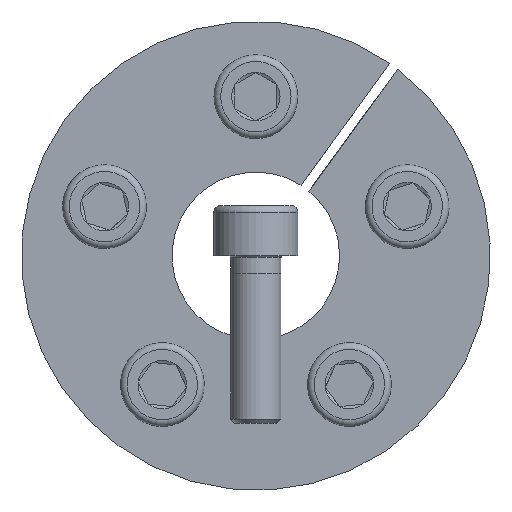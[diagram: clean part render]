
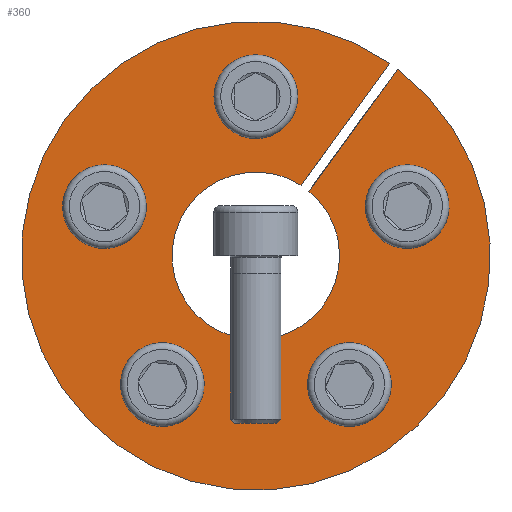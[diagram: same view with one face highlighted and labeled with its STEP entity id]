
A CAD part, front view. The second image highlights one B-rep face of the part: STEP entity #360.
In plain terms, the highlighted planar face has unit normal (0, -1, 0).
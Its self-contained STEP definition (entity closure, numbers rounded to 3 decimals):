
#360 = ADVANCED_FACE( '', ( #560, #561, #562, #563, #564, #565 ), #566, .F. );
#560 = FACE_BOUND( '', #694, .T. );
#561 = FACE_BOUND( '', #695, .T. );
#562 = FACE_BOUND( '', #696, .T. );
#563 = FACE_BOUND( '', #697, .T. );
#564 = FACE_BOUND( '', #698, .T. );
#565 = FACE_OUTER_BOUND( '', #699, .T. );
#566 = PLANE( '', #700 );
#694 = EDGE_LOOP( '', ( #867 ) );
#695 = EDGE_LOOP( '', ( #868 ) );
#696 = EDGE_LOOP( '', ( #869 ) );
#697 = EDGE_LOOP( '', ( #870 ) );
#698 = EDGE_LOOP( '', ( #871 ) );
#699 = EDGE_LOOP( '', ( #872, #873, #874, #875 ) );
#700 = AXIS2_PLACEMENT_3D( '', #876, #877, #878 );
#867 = ORIENTED_EDGE( '', *, *, #1167, .T. );
#868 = ORIENTED_EDGE( '', *, *, #1168, .T. );
#869 = ORIENTED_EDGE( '', *, *, #1169, .T. );
#870 = ORIENTED_EDGE( '', *, *, #1170, .T. );
#871 = ORIENTED_EDGE( '', *, *, #1171, .T. );
#872 = ORIENTED_EDGE( '', *, *, #1172, .T. );
#873 = ORIENTED_EDGE( '', *, *, #1173, .T. );
#874 = ORIENTED_EDGE( '', *, *, #1159, .T. );
#875 = ORIENTED_EDGE( '', *, *, #1174, .F. );
#876 = CARTESIAN_POINT( '', ( 0., 0., 28. ) );
#877 = DIRECTION( '', ( 0., 1., 0. ) );
#878 = DIRECTION( '', ( 0., 0., 1. ) );
#1159 = EDGE_CURVE( '', #1283, #1281, #1284, .T. );
#1167 = EDGE_CURVE( '', #1297, #1297, #1298, .T. );
#1168 = EDGE_CURVE( '', #1299, #1299, #1300, .T. );
#1169 = EDGE_CURVE( '', #1301, #1301, #1302, .T. );
#1170 = EDGE_CURVE( '', #1303, #1303, #1304, .T. );
#1171 = EDGE_CURVE( '', #1305, #1305, #1306, .T. );
#1172 = EDGE_CURVE( '', #1307, #1308, #1309, .T. );
#1173 = EDGE_CURVE( '', #1308, #1283, #1310, .T. );
#1174 = EDGE_CURVE( '', #1307, #1281, #1311, .T. );
#1281 = VERTEX_POINT( '', #1373 );
#1283 = VERTEX_POINT( '', #1376 );
#1284 = LINE( '', #1377, #1378 );
#1297 = VERTEX_POINT( '', #1402 );
#1298 = CIRCLE( '', #1403, 3. );
#1299 = VERTEX_POINT( '', #1404 );
#1300 = CIRCLE( '', #1405, 3. );
#1301 = VERTEX_POINT( '', #1406 );
#1302 = CIRCLE( '', #1407, 3. );
#1303 = VERTEX_POINT( '', #1408 );
#1304 = CIRCLE( '', #1409, 3. );
#1305 = VERTEX_POINT( '', #1410 );
#1306 = CIRCLE( '', #1411, 3. );
#1307 = VERTEX_POINT( '', #1412 );
#1308 = VERTEX_POINT( '', #1413 );
#1309 = LINE( '', #1414, #1415 );
#1310 = CIRCLE( '', #1416, 28. );
#1311 = CIRCLE( '', #1417, 10. );
#1373 = CARTESIAN_POINT( '', ( 6.343, 0., 7.731 ) );
#1376 = CARTESIAN_POINT( '', ( 16.93, 0., 22.302 ) );
#1377 = CARTESIAN_POINT( '', ( 16.933, 0., 22.307 ) );
#1378 = VECTOR( '', #1494, 1000. );
#1402 = CARTESIAN_POINT( '', ( -17.143, 0., 8.724 ) );
#1403 = AXIS2_PLACEMENT_3D( '', #1500, #1501, #1502 );
#1404 = CARTESIAN_POINT( '', ( 8.741, 0., -17.135 ) );
#1405 = AXIS2_PLACEMENT_3D( '', #1503, #1504, #1505 );
#1406 = CARTESIAN_POINT( '', ( 3., 0., 19. ) );
#1407 = AXIS2_PLACEMENT_3D( '', #1506, #1507, #1508 );
#1408 = CARTESIAN_POINT( '', ( 18.997, 0., 3.018 ) );
#1409 = AXIS2_PLACEMENT_3D( '', #1509, #1510, #1511 );
#1410 = CARTESIAN_POINT( '', ( -13.595, 0., -13.608 ) );
#1411 = AXIS2_PLACEMENT_3D( '', #1512, #1513, #1514 );
#1412 = CARTESIAN_POINT( '', ( 5.392, 0., 8.422 ) );
#1413 = CARTESIAN_POINT( '', ( 15.979, 0., 22.993 ) );
#1414 = CARTESIAN_POINT( '', ( 5.392, 0., 8.422 ) );
#1415 = VECTOR( '', #1515, 1000. );
#1416 = AXIS2_PLACEMENT_3D( '', #1516, #1517, #1518 );
#1417 = AXIS2_PLACEMENT_3D( '', #1519, #1520, #1521 );
#1494 = DIRECTION( '', ( -0.588, 0., -0.809 ) );
#1500 = CARTESIAN_POINT( '', ( -18.07, 0., 5.871 ) );
#1501 = DIRECTION( '', ( 0., 1., 0. ) );
#1502 = DIRECTION( '', ( 0.309, 0., 0.951 ) );
#1503 = CARTESIAN_POINT( '', ( 11.168, 0., -15.371 ) );
#1504 = DIRECTION( '', ( 0., 1., 0. ) );
#1505 = DIRECTION( '', ( -0.809, 0., -0.588 ) );
#1506 = CARTESIAN_POINT( '', ( 0., 0., 19. ) );
#1507 = DIRECTION( '', ( 0., 1., 0. ) );
#1508 = DIRECTION( '', ( 1., 0., 0. ) );
#1509 = CARTESIAN_POINT( '', ( 18.07, 0., 5.871 ) );
#1510 = DIRECTION( '', ( 0., 1., 0. ) );
#1511 = DIRECTION( '', ( 0.309, 0., -0.951 ) );
#1512 = CARTESIAN_POINT( '', ( -11.168, 0., -15.371 ) );
#1513 = DIRECTION( '', ( 0., 1., 0. ) );
#1514 = DIRECTION( '', ( -0.809, 0., 0.588 ) );
#1515 = DIRECTION( '', ( 0.588, 0., 0.809 ) );
#1516 = CARTESIAN_POINT( '', ( 0., 0., 0. ) );
#1517 = DIRECTION( '', ( 0., -1., 0. ) );
#1518 = DIRECTION( '', ( 0., 0., -1. ) );
#1519 = CARTESIAN_POINT( '', ( 0., 0., 0. ) );
#1520 = DIRECTION( '', ( 0., -1., 0. ) );
#1521 = DIRECTION( '', ( 0., 0., -1. ) );
